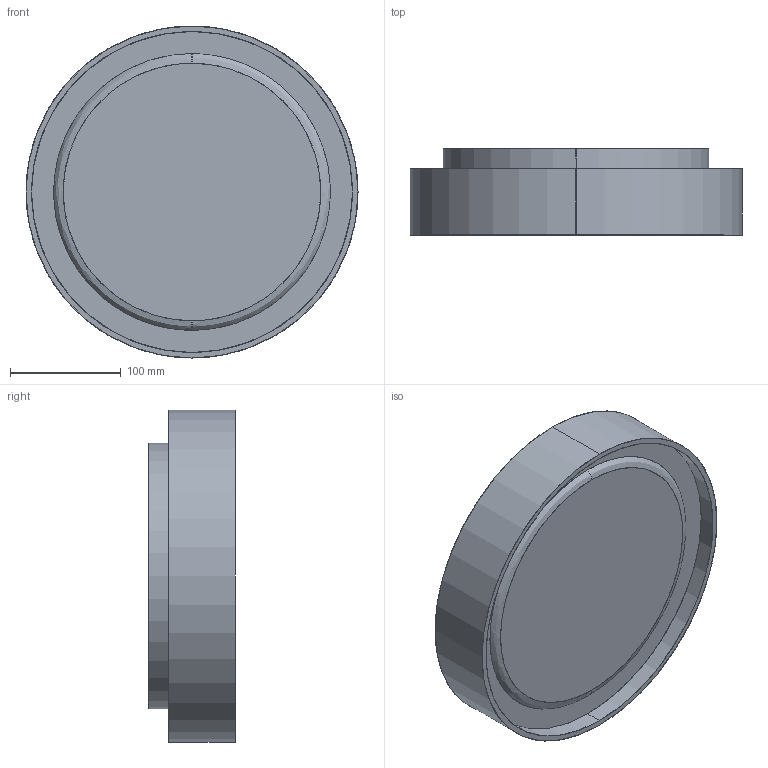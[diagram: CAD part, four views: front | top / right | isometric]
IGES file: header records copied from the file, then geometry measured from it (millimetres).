
Start section: SolidWorks IGES file using analytic representation for surfaces
Global section: file name: C:\Users\danielet\Desktop\3D CARLOS\TILO-P2013-3D\TILO-P2013-3D.IGS; native system: SolidWorks 2018; preprocessor: SolidWorks 2018; author: danielet; date: 220126.094304; units: millimetre
Bounding box: 300 x 78 x 300 mm (x, y, z)
Surface area: 240019.5 mm2 (no closed solid volume)
Topology: 0 solids, 0 shells, 16 faces, 680 edges, 680 vertices
Faces by surface type: bspline 8, revolution 8
